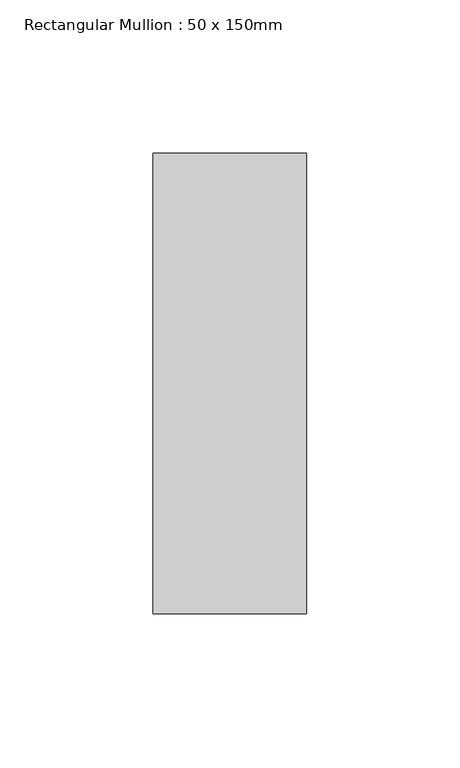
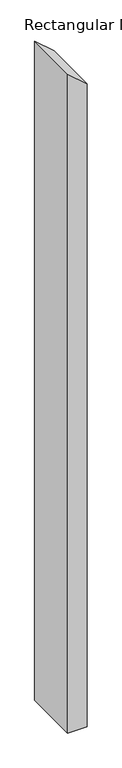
"""IFC4 building model written with IfcOpenShell, lengths in millimetres: member geometry, Rectangular Mullion : 50 x 150mm."""

import ifcopenshell
import ifcopenshell.guid

model = None  # the IFC model being written
_history = None  # IfcOwnerHistory: only IFC2X3 demands one
_inside = {}  # id of a spatial element -> (the spatial element, [elements in it])
_under = {}  # id of a project, library or spatial element -> (it, [spatial elements below it])
_declared = {}  # id of a project -> (the project, [libraries it declares])
_typed = {}  # id of a type object -> (the type object, [elements of that type])
_made_of = {}  # id of a material, layer set ... -> (it, [elements and type objects made of it])


def new_model(schema):
    """Start an empty IFC model of exactly this schema.

    Asked for "IFC4X3", IfcOpenShell would pick the latest addendum, in which some entities
    have other attributes; the version numbers below select the first issue.
    IFC2X3 requires an IfcOwnerHistory on every rooted entity: one is made here for all.
    """
    global model, _history
    if schema == "IFC4X3":
        model = ifcopenshell.file(schema_version=(4, 3, 0, 0))
    else:
        model = ifcopenshell.file(schema=schema)
    _inside.clear()
    _under.clear()
    _declared.clear()
    _typed.clear()
    _made_of.clear()
    _history = None
    if model.schema == "IFC2X3":
        org = make("IfcOrganization", Name="unknown")
        user = make(
            "IfcPersonAndOrganization",
            ThePerson=make("IfcPerson", FamilyName="unknown"),
            TheOrganization=org,
        )
        app = make(
            "IfcApplication",
            ApplicationDeveloper=org,
            Version="unknown",
            ApplicationFullName="unknown",
            ApplicationIdentifier="unknown",
        )
        _history = make(
            "IfcOwnerHistory",
            OwningUser=user,
            OwningApplication=app,
            ChangeAction="ADDED",
            CreationDate=0,
        )
    return model


def make(cls, **values):
    """One entity of the class cls with the attributes given. An attribute that is None is left unset."""
    return model.create_entity(
        cls, **{name: value for name, value in values.items() if value is not None}
    )


def rooted(cls, **values):
    """An entity with a GlobalId (a new one), such as an element, a storey or a relation."""
    return make(cls, GlobalId=ifcopenshell.guid.new(), OwnerHistory=_history, **values)


def si_unit(unit_type, name, prefix=None):
    """IfcSIUnit, for example si_unit("LENGTHUNIT", "METRE", prefix="MILLI")."""
    return make("IfcSIUnit", UnitType=unit_type, Prefix=prefix, Name=name)


def assignment(units):
    """IfcUnitAssignment: the units of a project."""
    return None if units is None else make("IfcUnitAssignment", Units=units)


def point(xyz):
    """IfcCartesianPoint."""
    return None if xyz is None else make("IfcCartesianPoint", Coordinates=xyz)


def direction(xyz):
    """IfcDirection."""
    return None if xyz is None else make("IfcDirection", DirectionRatios=xyz)


def frame(location, z_axis=None, x_axis=None):
    """IfcAxis2Placement3D, a coordinate frame: its origin and axes. An axis left out is left unset."""
    return make(
        "IfcAxis2Placement3D",
        Location=point(location),
        Axis=direction(z_axis),
        RefDirection=direction(x_axis),
    )


def origin():
    """The frame at (0, 0, 0) with its axes left unset."""
    return frame((0.0, 0.0, 0.0))


def place(relative_to, where):
    """IfcLocalPlacement: puts the frame where relative to a parent placement (None: the world)."""
    return make(
        "IfcLocalPlacement", PlacementRelTo=relative_to, RelativePlacement=where
    )


def context(
    kind, dimensions, precision=None, world=None, true_north=None, identifier=None
):
    """IfcGeometricRepresentationContext, for example the 3D "Model" context."""
    return make(
        "IfcGeometricRepresentationContext",
        ContextIdentifier=identifier,
        ContextType=kind,
        CoordinateSpaceDimension=dimensions,
        Precision=precision,
        WorldCoordinateSystem=world,
        TrueNorth=true_north,
    )


def project(units=None, contexts=None):
    """IfcProject with its units and contexts."""
    return rooted(
        "IfcProject",
        Name="project",
        RepresentationContexts=contexts,
        UnitsInContext=assignment(units),
    )


def spatial(cls, under=None, at=None, **own):
    """A site, building, storey or space (cls), placed at a placement, below another one or the project."""
    s = rooted(cls, ObjectPlacement=at, **own)
    if under is not None:
        _under.setdefault(under.id(), (under, []))[1].append(s)
    return s


def polyline(points):
    """IfcPolyline through the points."""
    return make("IfcPolyline", Points=[point(p) for p in points])


def outline(outer, holes=None, kind="AREA"):
    """IfcArbitraryClosedProfileDef: a profile drawn as a closed curve; with holes, ...WithVoids."""
    if holes is None:
        return make("IfcArbitraryClosedProfileDef", ProfileType=kind, OuterCurve=outer)
    return make(
        "IfcArbitraryProfileDefWithVoids",
        ProfileType=kind,
        OuterCurve=outer,
        InnerCurves=holes,
    )


def extrude(swept, where, along, depth):
    """IfcExtrudedAreaSolid: the profile swept, set in the frame where, extruded along a direction by depth."""
    return make(
        "IfcExtrudedAreaSolid",
        SweptArea=swept,
        Position=where,
        ExtrudedDirection=direction(along),
        Depth=depth,
    )


def shape(context_of_items, identifier, shape_type, items):
    """IfcShapeRepresentation: the items that make up one representation, for example the "Body"."""
    return make(
        "IfcShapeRepresentation",
        ContextOfItems=context_of_items,
        RepresentationIdentifier=identifier,
        RepresentationType=shape_type,
        Items=items,
    )


def source(mapping_origin, context_of_items, identifier, shape_type, items):
    """IfcRepresentationMap: a shape defined once, which mapped items show again and again."""
    return make(
        "IfcRepresentationMap",
        MappingOrigin=mapping_origin,
        MappedRepresentation=shape(context_of_items, identifier, shape_type, items),
    )


def transform(
    local_origin,
    x_axis=None,
    y_axis=None,
    z_axis=None,
    scale=None,
    scale2=None,
    scale3=None,
    uniform=True,
):
    """IfcCartesianTransformationOperator3D, or its non-uniform kind. x_axis, y_axis, z_axis: its Axis1, 2, 3."""
    if uniform:
        return make(
            "IfcCartesianTransformationOperator3D",
            Axis1=direction(x_axis),
            Axis2=direction(y_axis),
            LocalOrigin=point(local_origin),
            Scale=scale,
            Axis3=direction(z_axis),
        )
    return make(
        "IfcCartesianTransformationOperator3DnonUniform",
        Axis1=direction(x_axis),
        Axis2=direction(y_axis),
        LocalOrigin=point(local_origin),
        Scale=scale,
        Axis3=direction(z_axis),
        Scale2=scale2,
        Scale3=scale3,
    )


def mapped(mapping_source, mapping_target):
    """IfcMappedItem: shows the shape of a source again, moved by a transform."""
    return make(
        "IfcMappedItem", MappingSource=mapping_source, MappingTarget=mapping_target
    )


def made_of(thing, what):
    """Note that an element or type object is made of a material, layer set ...; save() writes the relation."""
    if what is not None:
        _made_of.setdefault(what.id(), (what, []))[1].append(thing)
    return thing


def element(
    cls,
    number,
    at=None,
    inside=None,
    cuts=None,
    type_object=None,
    material=None,
    context=None,
    identifier="Body",
    shape_type=None,
    held_by="IfcProductDefinitionShape",
    body=None,
    shapes=None,
    **own,
):
    """One element of the class cls, such as IfcWall. Its Tag is "e" and its number.

    at: its placement. inside: the storey or other place that contains it. cuts: it is an
    opening in that element (IfcRelVoidsElement). A single representation is given by context,
    identifier, shape_type and body (its items); several are given by shapes. held_by: the class
    of the entity that holds the representations. save() writes the other relations.
    """
    e = rooted(cls, Tag="e%d" % number, ObjectPlacement=at, **own)
    if body is not None:
        shapes = [shape(context, identifier, shape_type, body)]
    if shapes is not None:
        e.Representation = make(held_by, Representations=shapes)
    if inside is not None:
        _inside.setdefault(inside.id(), (inside, []))[1].append(e)
    if cuts is not None:
        rooted(
            "IfcRelVoidsElement", RelatingBuildingElement=cuts, RelatedOpeningElement=e
        )
    if type_object is not None:
        _typed.setdefault(type_object.id(), (type_object, []))[1].append(e)
    return made_of(e, material)


def aggregate(whole, parts):
    """IfcRelAggregates: a whole, such as a stair, and the parts it consists of."""
    return rooted("IfcRelAggregates", RelatingObject=whole, RelatedObjects=parts)


def save(model, path):
    """Write the relations noted so far, then the file.

    IfcRelAggregates (storeys below a building ...), IfcRelContainedInSpatialStructure (elements
    in a storey), IfcRelDefinesByType, IfcRelAssociatesMaterial and IfcRelDeclares: one each for
    every whole, place, type object, material and project.
    """
    for whole, parts in _under.values():
        aggregate(whole, parts)
    for where, things in _inside.values():
        rooted(
            "IfcRelContainedInSpatialStructure",
            RelatedElements=things,
            RelatingStructure=where,
        )
    for kind, things in _typed.values():
        rooted("IfcRelDefinesByType", RelatedObjects=things, RelatingType=kind)
    for what, things in _made_of.values():
        rooted("IfcRelAssociatesMaterial", RelatedObjects=things, RelatingMaterial=what)
    for by, libraries in _declared.values():
        rooted("IfcRelDeclares", RelatingContext=by, RelatedDefinitions=libraries)
    model.write(path)


def rectangular_mullion_50_x_150mm_4f853a4a(model_context):
    return source(origin(), model_context, "Body", "SweptSolid", [
        extrude(outline(polyline([(-88.415239, 25.0), (-44.5773716, -25.0), (-1868.3919303, -25.0), (-1868.3919303, 25.0), (-88.415239, 25.0)])), frame((0.0, -75.0, 0.0), z_axis=(0.0, 1.0, 0.0), x_axis=(0.0, 0.0, 1.0)), (0.0, 0.0, 1.0), 150.0),
    ])


if __name__ == "__main__":
    model = new_model("IFC4")
    model_context = context("Model", 3, world=origin())
    ifc_project = project(units=[si_unit("LENGTHUNIT", "METRE", prefix="MILLI")], contexts=[model_context])
    site = spatial("IfcSite", under=ifc_project)
    building = spatial("IfcBuilding", under=site)
    placement = place(None, origin())
    rectangular_mullion_50_x_150mm_shape = rectangular_mullion_50_x_150mm_4f853a4a(model_context)
    element("IfcMember", 1, ObjectType="Rectangular Mullion : 50 x 150mm", at=placement, inside=building, context=model_context, shape_type="MappedRepresentation", body=[
        mapped(rectangular_mullion_50_x_150mm_shape, transform((0.0, 0.0, 0.0), x_axis=(1.0, 0.0, 0.0), y_axis=(0.0, 1.0, 0.0), z_axis=(0.0, 0.0, 1.0))),
    ])
    save(model, "model.ifc")
